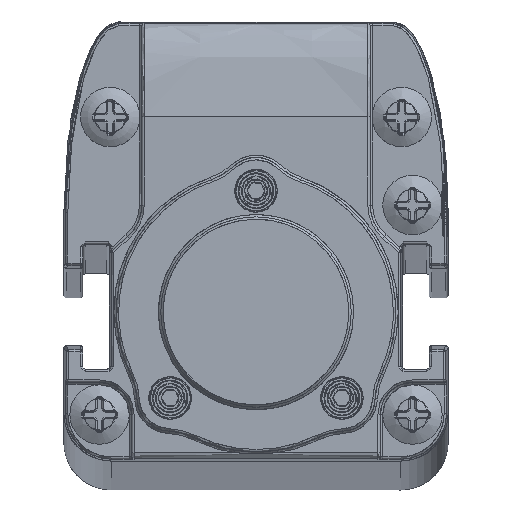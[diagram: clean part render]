
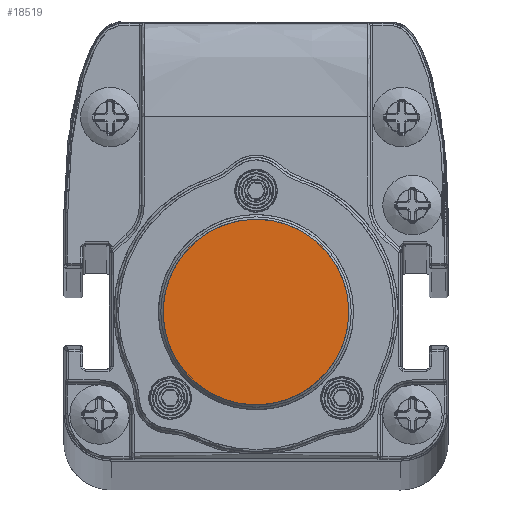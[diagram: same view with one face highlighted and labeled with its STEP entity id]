
A CAD part, top view. The second image highlights one B-rep face of the part: STEP entity #18519.
In plain terms, the highlighted planar face has unit normal (0, 0, 1).
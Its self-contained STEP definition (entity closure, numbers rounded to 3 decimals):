
#15756=B_SPLINE_CURVE_WITH_KNOTS('',3,(#63135,#63136,#63137,#63138,#63139,
#63140,#63141,#63142,#63143,#63144,#63145,#63146,#63147,#63148,#63149,#63150,
#63151,#63152,#63153,#63154,#63155,#63156,#63157,#63158,#63159,#63160,#63161,
#63162,#63163,#63164,#63165,#63166,#63167,#63168,#63169,#63170,#63171,#63172,
#63173,#63174,#63175,#63176,#63177,#63178,#63179,#63180,#63181,#63182,#63183,
#63184,#63185,#63186,#63187,#63188,#63189,#63190,#63191,#63192,#63193,#63194,
#63195,#63196,#63197,#63198,#63199,#63200,#63201,#63202,#63203,#63204,#63205,
#63206,#63207,#63208,#63209,#63210,#63211,#63212,#63213,#63214,#63215,#63216,
#63217,#63218,#63219,#63220,#63221,#63222,#63223,#63224,#63225,#63226,#63227,
#63228,#63229,#63230,#63231,#63232,#63233,#63234,#63235,#63236,#63237),
 .UNSPECIFIED.,.T.,.F.,(1,3,3,3,3,3,3,3,3,3,3,3,3,3,3,3,3,3,3,3,3,3,3,3,
3,3,3,3,3,3,3,3,3,3,3,3,1),(-0.029,0.,0.029,0.059,
0.088,0.118,0.147,0.176,
0.206,0.235,0.265,0.294,
0.324,0.353,0.382,0.412,
0.441,0.471,0.5,0.529,0.559,
0.588,0.618,0.647,0.676,
0.706,0.735,0.765,0.794,
0.824,0.853,0.882,0.912,
0.941,0.971,1.,1.029),.UNSPECIFIED.);
#18519=ADVANCED_FACE('',(#20559),#19495,.T.);
#19495=PLANE('',#44245);
#20559=FACE_OUTER_BOUND('',#21976,.T.);
#21976=EDGE_LOOP('',(#28290));
#28290=ORIENTED_EDGE('',*,*,#37474,.T.);
#32461=VERTEX_POINT('',#63238);
#37474=EDGE_CURVE('',#32461,#32461,#15756,.T.);
#44245=AXIS2_PLACEMENT_3D('',#63239,#48149,#48150);
#48149=DIRECTION('',(0.,0.,1.));
#48150=DIRECTION('',(1.,0.,0.));
#63135=CARTESIAN_POINT('',(7.8,0.,1433.24));
#63136=CARTESIAN_POINT('',(7.8,0.465,1433.24));
#63137=CARTESIAN_POINT('',(7.759,0.925,1433.24));
#63138=CARTESIAN_POINT('',(7.679,1.376,1433.24));
#63139=CARTESIAN_POINT('',(7.638,1.601,1433.24));
#63140=CARTESIAN_POINT('',(7.588,1.825,1433.24));
#63141=CARTESIAN_POINT('',(7.527,2.047,1433.24));
#63142=CARTESIAN_POINT('',(7.466,2.269,1433.24));
#63143=CARTESIAN_POINT('',(7.407,2.458,1433.24));
#63144=CARTESIAN_POINT('',(7.315,2.708,1433.24));
#63145=CARTESIAN_POINT('',(7.129,3.209,1433.24));
#63146=CARTESIAN_POINT('',(6.898,3.683,1433.24));
#63147=CARTESIAN_POINT('',(6.62,4.128,1433.24));
#63148=CARTESIAN_POINT('',(6.343,4.573,1433.24));
#63149=CARTESIAN_POINT('',(6.043,4.965,1433.24));
#63150=CARTESIAN_POINT('',(5.651,5.376,1433.24));
#63151=CARTESIAN_POINT('',(4.868,6.2,1433.24));
#63152=CARTESIAN_POINT('',(3.912,6.837,1433.24));
#63153=CARTESIAN_POINT('',(2.89,7.245,1433.24));
#63154=CARTESIAN_POINT('',(2.378,7.449,1433.24));
#63155=CARTESIAN_POINT('',(1.856,7.597,1433.24));
#63156=CARTESIAN_POINT('',(1.324,7.689,1433.24));
#63157=CARTESIAN_POINT('',(1.058,7.734,1433.24));
#63158=CARTESIAN_POINT('',(0.79,7.766,1433.24));
#63159=CARTESIAN_POINT('',(0.52,7.784,1433.24));
#63160=CARTESIAN_POINT('',(0.249,7.801,1433.24));
#63161=CARTESIAN_POINT('',(-0.055,7.804,1433.24));
#63162=CARTESIAN_POINT('',(-0.3,7.794,1433.24));
#63163=CARTESIAN_POINT('',(-0.79,7.775,1433.24));
#63164=CARTESIAN_POINT('',(-1.271,7.712,1433.24));
#63165=CARTESIAN_POINT('',(-1.742,7.604,1433.24));
#63166=CARTESIAN_POINT('',(-2.213,7.496,1433.24));
#63167=CARTESIAN_POINT('',(-2.713,7.327,1433.24));
#63168=CARTESIAN_POINT('',(-3.123,7.147,1433.24));
#63169=CARTESIAN_POINT('',(-3.534,6.968,1433.24));
#63170=CARTESIAN_POINT('',(-3.924,6.757,1433.24));
#63171=CARTESIAN_POINT('',(-4.293,6.513,1433.24));
#63172=CARTESIAN_POINT('',(-4.477,6.392,1433.24));
#63173=CARTESIAN_POINT('',(-4.656,6.262,1433.24));
#63174=CARTESIAN_POINT('',(-4.83,6.125,1433.24));
#63175=CARTESIAN_POINT('',(-5.004,5.987,1433.24));
#63176=CARTESIAN_POINT('',(-5.15,5.864,1433.24));
#63177=CARTESIAN_POINT('',(-5.337,5.688,1433.24));
#63178=CARTESIAN_POINT('',(-5.712,5.337,1433.24));
#63179=CARTESIAN_POINT('',(-6.047,4.956,1433.24));
#63180=CARTESIAN_POINT('',(-6.341,4.545,1433.24));
#63181=CARTESIAN_POINT('',(-6.635,4.134,1433.24));
#63182=CARTESIAN_POINT('',(-6.869,3.738,1433.24));
#63183=CARTESIAN_POINT('',(-7.102,3.226,1433.24));
#63184=CARTESIAN_POINT('',(-7.567,2.203,1433.24));
#63185=CARTESIAN_POINT('',(-7.8,1.124,1433.24));
#63186=CARTESIAN_POINT('',(-7.8,0.,1433.24));
#63187=CARTESIAN_POINT('',(-7.8,-0.562,1433.24));
#63188=CARTESIAN_POINT('',(-7.742,-1.113,1433.24));
#63189=CARTESIAN_POINT('',(-7.625,-1.651,1433.24));
#63190=CARTESIAN_POINT('',(-7.509,-2.189,1433.24));
#63191=CARTESIAN_POINT('',(-7.314,-2.758,1433.24));
#63192=CARTESIAN_POINT('',(-7.102,-3.226,1433.24));
#63193=CARTESIAN_POINT('',(-6.889,-3.694,1433.24));
#63194=CARTESIAN_POINT('',(-6.636,-4.134,1433.24));
#63195=CARTESIAN_POINT('',(-6.341,-4.544,1433.24));
#63196=CARTESIAN_POINT('',(-6.194,-4.75,1433.24));
#63197=CARTESIAN_POINT('',(-6.037,-4.947,1433.24));
#63198=CARTESIAN_POINT('',(-5.87,-5.138,1433.24));
#63199=CARTESIAN_POINT('',(-5.702,-5.329,1433.24));
#63200=CARTESIAN_POINT('',(-5.5,-5.535,1433.24));
#63201=CARTESIAN_POINT('',(-5.337,-5.688,1433.24));
#63202=CARTESIAN_POINT('',(-5.01,-5.995,1433.24));
#63203=CARTESIAN_POINT('',(-4.662,-6.27,1433.24));
#63204=CARTESIAN_POINT('',(-4.293,-6.513,1433.24));
#63205=CARTESIAN_POINT('',(-3.924,-6.756,1433.24));
#63206=CARTESIAN_POINT('',(-3.573,-6.951,1433.24));
#63207=CARTESIAN_POINT('',(-3.123,-7.147,1433.24));
#63208=CARTESIAN_POINT('',(-2.674,-7.344,1433.24));
#63209=CARTESIAN_POINT('',(-2.213,-7.496,1433.24));
#63210=CARTESIAN_POINT('',(-1.743,-7.604,1433.24));
#63211=CARTESIAN_POINT('',(-1.507,-7.658,1433.24));
#63212=CARTESIAN_POINT('',(-1.27,-7.701,1433.24));
#63213=CARTESIAN_POINT('',(-1.029,-7.732,1433.24));
#63214=CARTESIAN_POINT('',(-0.789,-7.764,1433.24));
#63215=CARTESIAN_POINT('',(-0.575,-7.784,1433.24));
#63216=CARTESIAN_POINT('',(-0.3,-7.794,1433.24));
#63217=CARTESIAN_POINT('',(0.801,-7.837,1433.24));
#63218=CARTESIAN_POINT('',(1.834,-7.666,1433.24));
#63219=CARTESIAN_POINT('',(2.89,-7.245,1433.24));
#63220=CARTESIAN_POINT('',(3.417,-7.035,1433.24));
#63221=CARTESIAN_POINT('',(3.912,-6.774,1433.24));
#63222=CARTESIAN_POINT('',(4.372,-6.462,1433.24));
#63223=CARTESIAN_POINT('',(4.833,-6.15,1433.24));
#63224=CARTESIAN_POINT('',(5.283,-5.763,1433.24));
#63225=CARTESIAN_POINT('',(5.651,-5.376,1433.24));
#63226=CARTESIAN_POINT('',(6.019,-4.989,1433.24));
#63227=CARTESIAN_POINT('',(6.342,-4.573,1433.24));
#63228=CARTESIAN_POINT('',(6.62,-4.128,1433.24));
#63229=CARTESIAN_POINT('',(6.759,-3.906,1433.24));
#63230=CARTESIAN_POINT('',(6.886,-3.676,1433.24));
#63231=CARTESIAN_POINT('',(7.002,-3.44,1433.24));
#63232=CARTESIAN_POINT('',(7.117,-3.203,1433.24));
#63233=CARTESIAN_POINT('',(7.234,-2.926,1433.24));
#63234=CARTESIAN_POINT('',(7.315,-2.708,1433.24));
#63235=CARTESIAN_POINT('',(7.638,-1.835,1433.24));
#63236=CARTESIAN_POINT('',(7.8,-0.933,1433.24));
#63237=CARTESIAN_POINT('',(7.8,0.,1433.24));
#63238=CARTESIAN_POINT('',(7.8,0.,1433.24));
#63239=CARTESIAN_POINT('',(-8.9,-8.81,1433.24));
